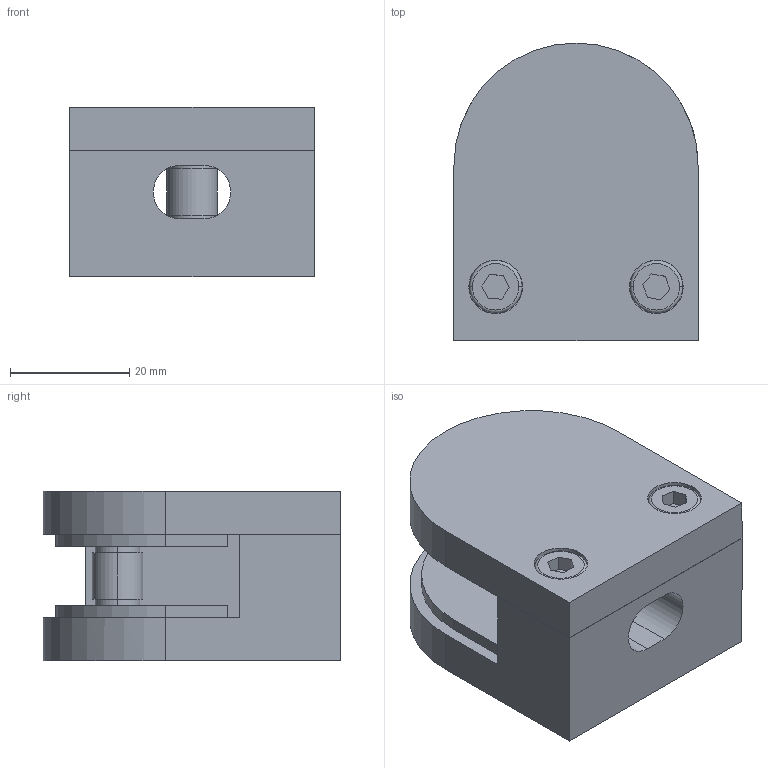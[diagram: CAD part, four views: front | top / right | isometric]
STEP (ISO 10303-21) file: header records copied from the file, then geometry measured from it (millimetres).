
FILE_DESCRIPTION (( 'STEP AP203' ), '1' );
FILE_NAME ('3D_GG4002_Flach x10_188758170.STEP', '2024-11-01T11:30:24', ( '' ), ( '' ), 'SwSTEP 2.0', 'SolidWorks 2023', '' );
FILE_SCHEMA (( 'CONFIG_CONTROL_DESIGN' ));
Length unit declared in the file: millimetre
Products named in the file (1): 3D_GG4002_Flach x10_188758170
Bounding box: 41 x 50 x 28.5 mm (x, y, z)
Volume: 40257.8 mm3; surface area: 19571.4 mm2
Topology: 7 solids, 7 shells, 117 faces, 259 edges, 170 vertices
Faces by surface type: plane 63, cylinder 46, torus 4, cone 4
Entity records: 3339 total; most frequent: DIRECTION 600, CARTESIAN_POINT 547, ORIENTED_EDGE 518, EDGE_CURVE 259, AXIS2_PLACEMENT_3D 223, VERTEX_POINT 170, LINE 154, VECTOR 154
